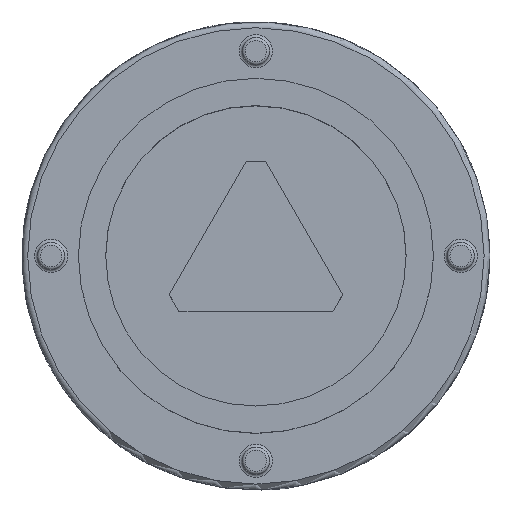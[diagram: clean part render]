
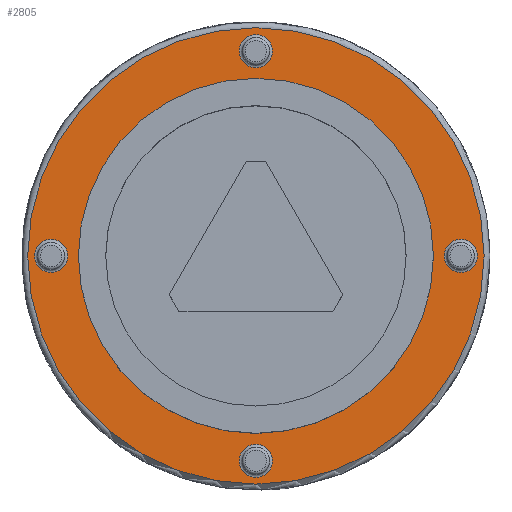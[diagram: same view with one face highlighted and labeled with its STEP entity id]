
A CAD part, top view. The second image highlights one B-rep face of the part: STEP entity #2805.
In plain terms, the highlighted planar face has unit normal (0, 0, 1).
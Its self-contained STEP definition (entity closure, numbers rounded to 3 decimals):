
#257 = ORIENTED_EDGE ( 'NONE', *, *, #7275, .F. ) ;
#262 = CARTESIAN_POINT ( 'NONE',  ( 0.85, 10.5, 1.7 ) ) ;
#371 = CARTESIAN_POINT ( 'NONE',  ( 0.85, -10.5, 1.7 ) ) ;
#620 = DIRECTION ( 'NONE',  ( 1., 0., 0. ) ) ;
#647 = EDGE_LOOP ( 'NONE', ( #5875 ) ) ;
#669 = CIRCLE ( 'NONE', #9380, 0.85 ) ;
#1019 = VERTEX_POINT ( 'NONE', #5678 ) ;
#1029 = PLANE ( 'NONE',  #4803 ) ;
#1059 = CIRCLE ( 'NONE', #6725, 0.85 ) ;
#1062 = DIRECTION ( 'NONE',  ( 1., 0., 0. ) ) ;
#1261 = VERTEX_POINT ( 'NONE', #9676 ) ;
#1467 = CARTESIAN_POINT ( 'NONE',  ( -10.5, 0., 1.7 ) ) ;
#1519 = CARTESIAN_POINT ( 'NONE',  ( 0., 0., 1.7 ) ) ;
#1584 = AXIS2_PLACEMENT_3D ( 'NONE', #2774, #4281, #3236 ) ;
#1625 = EDGE_CURVE ( 'NONE', #7209, #7209, #669, .T. ) ;
#1706 = DIRECTION ( 'NONE',  ( 1., 0., 0. ) ) ;
#2003 = ORIENTED_EDGE ( 'NONE', *, *, #9969, .T. ) ;
#2774 = CARTESIAN_POINT ( 'NONE',  ( 0., 0., 1.7 ) ) ;
#2805 = ADVANCED_FACE ( 'NONE', ( #8323, #7379, #9538, #4116, #7560, #3702 ), #1029, .T. ) ;
#2911 = CIRCLE ( 'NONE', #3883, 9.1 ) ;
#3236 = DIRECTION ( 'NONE',  ( 1., 0., 0. ) ) ;
#3261 = AXIS2_PLACEMENT_3D ( 'NONE', #9365, #3291, #1062 ) ;
#3291 = DIRECTION ( 'NONE',  ( 0., 0., -1. ) ) ;
#3397 = CARTESIAN_POINT ( 'NONE',  ( 11.35, 0., 1.7 ) ) ;
#3447 = VERTEX_POINT ( 'NONE', #371 ) ;
#3602 = VERTEX_POINT ( 'NONE', #6736 ) ;
#3702 = FACE_BOUND ( 'NONE', #6128, .T. ) ;
#3883 = AXIS2_PLACEMENT_3D ( 'NONE', #1519, #7618, #5454 ) ;
#4116 = FACE_BOUND ( 'NONE', #647, .T. ) ;
#4281 = DIRECTION ( 'NONE',  ( 0., 0., 1. ) ) ;
#4448 = DIRECTION ( 'NONE',  ( 1., 0., 0. ) ) ;
#4526 = EDGE_CURVE ( 'NONE', #1019, #1019, #4914, .T. ) ;
#4555 = DIRECTION ( 'NONE',  ( 0., 0., -1. ) ) ;
#4796 = DIRECTION ( 'NONE',  ( 0., 0., -1. ) ) ;
#4803 = AXIS2_PLACEMENT_3D ( 'NONE', #9591, #7273, #620 ) ;
#4867 = VERTEX_POINT ( 'NONE', #3397 ) ;
#4914 = CIRCLE ( 'NONE', #6044, 0.85 ) ;
#5207 = CIRCLE ( 'NONE', #3261, 0.85 ) ;
#5394 = EDGE_LOOP ( 'NONE', ( #7832 ) ) ;
#5454 = DIRECTION ( 'NONE',  ( 1., 0., 0. ) ) ;
#5488 = CIRCLE ( 'NONE', #1584, 11.7 ) ;
#5678 = CARTESIAN_POINT ( 'NONE',  ( -9.65, 0., 1.7 ) ) ;
#5711 = EDGE_LOOP ( 'NONE', ( #5932 ) ) ;
#5875 = ORIENTED_EDGE ( 'NONE', *, *, #4526, .T. ) ;
#5886 = EDGE_CURVE ( 'NONE', #4867, #4867, #1059, .T. ) ;
#5932 = ORIENTED_EDGE ( 'NONE', *, *, #7420, .T. ) ;
#6044 = AXIS2_PLACEMENT_3D ( 'NONE', #1467, #6896, #6849 ) ;
#6128 = EDGE_LOOP ( 'NONE', ( #257 ) ) ;
#6725 = AXIS2_PLACEMENT_3D ( 'NONE', #9352, #4796, #1706 ) ;
#6736 = CARTESIAN_POINT ( 'NONE',  ( 9.1, 0., 1.7 ) ) ;
#6848 = CARTESIAN_POINT ( 'NONE',  ( 0., 10.5, 1.7 ) ) ;
#6849 = DIRECTION ( 'NONE',  ( 1., 0., 0. ) ) ;
#6896 = DIRECTION ( 'NONE',  ( 0., 0., -1. ) ) ;
#6988 = EDGE_LOOP ( 'NONE', ( #8119 ) ) ;
#7209 = VERTEX_POINT ( 'NONE', #262 ) ;
#7273 = DIRECTION ( 'NONE',  ( 0., 0., 1. ) ) ;
#7275 = EDGE_CURVE ( 'NONE', #3602, #3602, #2911, .T. ) ;
#7379 = FACE_BOUND ( 'NONE', #5394, .T. ) ;
#7420 = EDGE_CURVE ( 'NONE', #1261, #1261, #5488, .T. ) ;
#7560 = FACE_OUTER_BOUND ( 'NONE', #5711, .T. ) ;
#7618 = DIRECTION ( 'NONE',  ( 0., 0., 1. ) ) ;
#7832 = ORIENTED_EDGE ( 'NONE', *, *, #5886, .T. ) ;
#8119 = ORIENTED_EDGE ( 'NONE', *, *, #1625, .T. ) ;
#8323 = FACE_BOUND ( 'NONE', #8513, .T. ) ;
#8513 = EDGE_LOOP ( 'NONE', ( #2003 ) ) ;
#9352 = CARTESIAN_POINT ( 'NONE',  ( 10.5, 0., 1.7 ) ) ;
#9365 = CARTESIAN_POINT ( 'NONE',  ( 0., -10.5, 1.7 ) ) ;
#9380 = AXIS2_PLACEMENT_3D ( 'NONE', #6848, #4555, #4448 ) ;
#9538 = FACE_BOUND ( 'NONE', #6988, .T. ) ;
#9591 = CARTESIAN_POINT ( 'NONE',  ( 0., 0., 1.7 ) ) ;
#9676 = CARTESIAN_POINT ( 'NONE',  ( 11.7, 0., 1.7 ) ) ;
#9969 = EDGE_CURVE ( 'NONE', #3447, #3447, #5207, .T. ) ;
